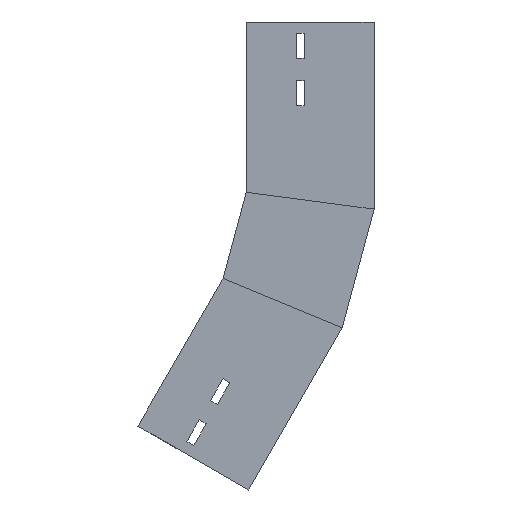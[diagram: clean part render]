
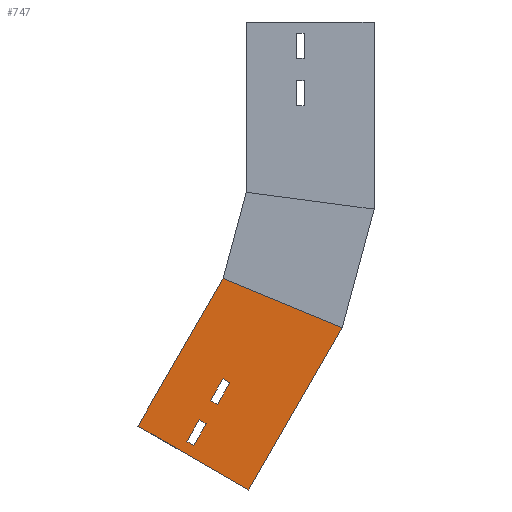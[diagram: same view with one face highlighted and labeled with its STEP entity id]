
A CAD part, left-side view. The second image highlights one B-rep face of the part: STEP entity #747.
In plain terms, the highlighted planar face has unit normal (-1, 0, 0) as drawn and (1, 0, 0) by its records, which use the part's own axes.
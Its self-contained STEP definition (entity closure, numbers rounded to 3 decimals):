
#7 = CARTESIAN_POINT ( 'NONE',  ( 0., 68.5, -73.505 ) ) ;
#8 = EDGE_CURVE ( 'NONE', #1319, #1170, #1271, .T. ) ;
#16 = VERTEX_POINT ( 'NONE', #1313 ) ;
#76 = CARTESIAN_POINT ( 'NONE',  ( 0., 61.5, -51.505 ) ) ;
#85 = VERTEX_POINT ( 'NONE', #588 ) ;
#102 = EDGE_CURVE ( 'NONE', #1325, #16, #467, .T. ) ;
#114 = LINE ( 'NONE', #792, #1168 ) ;
#117 = VECTOR ( 'NONE', #482, 1000. ) ;
#118 = DIRECTION ( 'NONE',  ( 0., -0.991, -0.131 ) ) ;
#143 = LINE ( 'NONE', #1056, #408 ) ;
#145 = CARTESIAN_POINT ( 'NONE',  ( 0., 68.5, -51.505 ) ) ;
#151 = DIRECTION ( 'NONE',  ( 0., 0., -1. ) ) ;
#152 = VECTOR ( 'NONE', #1453, 1000. ) ;
#177 = CARTESIAN_POINT ( 'NONE',  ( 0., 112.5, 0. ) ) ;
#180 = VECTOR ( 'NONE', #707, 1000. ) ;
#181 = AXIS2_PLACEMENT_3D ( 'NONE', #689, #1363, #335 ) ;
#182 = DIRECTION ( 'NONE',  ( 0., 0., -1. ) ) ;
#196 = DIRECTION ( 'NONE',  ( 0., 0., 1. ) ) ;
#222 = CARTESIAN_POINT ( 'NONE',  ( 0., 0., 0. ) ) ;
#240 = DIRECTION ( 'NONE',  ( 0., 0., 1. ) ) ;
#246 = VERTEX_POINT ( 'NONE', #1018 ) ;
#258 = VERTEX_POINT ( 'NONE', #145 ) ;
#286 = ORIENTED_EDGE ( 'NONE', *, *, #896, .T. ) ;
#314 = VECTOR ( 'NONE', #240, 1000. ) ;
#325 = LINE ( 'NONE', #1108, #580 ) ;
#326 = CARTESIAN_POINT ( 'NONE',  ( 0., 0., -164.6 ) ) ;
#335 = DIRECTION ( 'NONE',  ( 0., 0., 1. ) ) ;
#351 = EDGE_LOOP ( 'NONE', ( #286, #753, #604, #1160 ) ) ;
#355 = VECTOR ( 'NONE', #151, 1000. ) ;
#365 = EDGE_LOOP ( 'NONE', ( #914, #967, #525, #614 ) ) ;
#408 = VECTOR ( 'NONE', #118, 1000. ) ;
#413 = VERTEX_POINT ( 'NONE', #1369 ) ;
#435 = EDGE_LOOP ( 'NONE', ( #1381, #633, #761, #1474 ) ) ;
#443 = CARTESIAN_POINT ( 'NONE',  ( 0., 68.5, -51.505 ) ) ;
#446 = FACE_OUTER_BOUND ( 'NONE', #435, .T. ) ;
#467 = LINE ( 'NONE', #475, #553 ) ;
#469 = VERTEX_POINT ( 'NONE', #1361 ) ;
#475 = CARTESIAN_POINT ( 'NONE',  ( 0., 0., 0. ) ) ;
#479 = FACE_BOUND ( 'NONE', #365, .T. ) ;
#482 = DIRECTION ( 'NONE',  ( 0., 1., 0. ) ) ;
#496 = DIRECTION ( 'NONE',  ( 0., -1., 0. ) ) ;
#525 = ORIENTED_EDGE ( 'NONE', *, *, #708, .T. ) ;
#553 = VECTOR ( 'NONE', #1165, 1000. ) ;
#561 = EDGE_CURVE ( 'NONE', #258, #85, #1402, .T. ) ;
#569 = CARTESIAN_POINT ( 'NONE',  ( 0., 68.5, -9.835 ) ) ;
#580 = VECTOR ( 'NONE', #182, 1000. ) ;
#588 = CARTESIAN_POINT ( 'NONE',  ( 0., 68.5, -73.505 ) ) ;
#604 = ORIENTED_EDGE ( 'NONE', *, *, #1242, .T. ) ;
#610 = CARTESIAN_POINT ( 'NONE',  ( 0., 68.5, -51.505 ) ) ;
#611 = VECTOR ( 'NONE', #1102, 1000. ) ;
#614 = ORIENTED_EDGE ( 'NONE', *, *, #1101, .T. ) ;
#633 = ORIENTED_EDGE ( 'NONE', *, *, #102, .F. ) ;
#638 = LINE ( 'NONE', #177, #180 ) ;
#641 = EDGE_CURVE ( 'NONE', #413, #258, #1205, .T. ) ;
#666 = CARTESIAN_POINT ( 'NONE',  ( 0., 61.5, -31.835 ) ) ;
#688 = DIRECTION ( 'NONE',  ( 0., -1., 0. ) ) ;
#689 = CARTESIAN_POINT ( 'NONE',  ( 0., 0., 0. ) ) ;
#707 = DIRECTION ( 'NONE',  ( 0., 0., -1. ) ) ;
#708 = EDGE_CURVE ( 'NONE', #85, #1358, #1254, .T. ) ;
#734 = CARTESIAN_POINT ( 'NONE',  ( 0., 61.5, -73.505 ) ) ;
#740 = VERTEX_POINT ( 'NONE', #326 ) ;
#747 = ADVANCED_FACE ( 'NONE', ( #479, #446, #892 ), #898, .F. ) ;
#753 = ORIENTED_EDGE ( 'NONE', *, *, #873, .T. ) ;
#761 = ORIENTED_EDGE ( 'NONE', *, *, #1140, .T. ) ;
#792 = CARTESIAN_POINT ( 'NONE',  ( 0., 68.5, -31.835 ) ) ;
#823 = EDGE_CURVE ( 'NONE', #16, #246, #638, .T. ) ;
#873 = EDGE_CURVE ( 'NONE', #1396, #469, #1492, .T. ) ;
#892 = FACE_BOUND ( 'NONE', #351, .T. ) ;
#896 = EDGE_CURVE ( 'NONE', #1170, #1396, #1044, .T. ) ;
#898 = PLANE ( 'NONE',  #181 ) ;
#914 = ORIENTED_EDGE ( 'NONE', *, *, #641, .T. ) ;
#936 = VECTOR ( 'NONE', #496, 1000. ) ;
#956 = EDGE_CURVE ( 'NONE', #246, #740, #143, .T. ) ;
#967 = ORIENTED_EDGE ( 'NONE', *, *, #561, .T. ) ;
#1007 = CARTESIAN_POINT ( 'NONE',  ( 0., 61.5, -9.835 ) ) ;
#1016 = LINE ( 'NONE', #76, #1366 ) ;
#1018 = CARTESIAN_POINT ( 'NONE',  ( 0., 112.5, -149.789 ) ) ;
#1044 = LINE ( 'NONE', #1245, #117 ) ;
#1056 = CARTESIAN_POINT ( 'NONE',  ( 0., 21.301, -161.796 ) ) ;
#1087 = CARTESIAN_POINT ( 'NONE',  ( 0., 68.5, -9.835 ) ) ;
#1101 = EDGE_CURVE ( 'NONE', #1358, #413, #1016, .T. ) ;
#1102 = DIRECTION ( 'NONE',  ( 0., 0., -1. ) ) ;
#1108 = CARTESIAN_POINT ( 'NONE',  ( 0., 0., 0. ) ) ;
#1140 = EDGE_CURVE ( 'NONE', #1325, #740, #325, .T. ) ;
#1141 = CARTESIAN_POINT ( 'NONE',  ( 0., 61.5, -9.835 ) ) ;
#1160 = ORIENTED_EDGE ( 'NONE', *, *, #8, .T. ) ;
#1165 = DIRECTION ( 'NONE',  ( 0., 1., 0. ) ) ;
#1168 = VECTOR ( 'NONE', #688, 1000. ) ;
#1170 = VERTEX_POINT ( 'NONE', #1007 ) ;
#1205 = LINE ( 'NONE', #443, #152 ) ;
#1242 = EDGE_CURVE ( 'NONE', #469, #1319, #114, .T. ) ;
#1245 = CARTESIAN_POINT ( 'NONE',  ( 0., 68.5, -9.835 ) ) ;
#1254 = LINE ( 'NONE', #7, #936 ) ;
#1271 = LINE ( 'NONE', #1141, #314 ) ;
#1313 = CARTESIAN_POINT ( 'NONE',  ( 0., 112.5, 0. ) ) ;
#1319 = VERTEX_POINT ( 'NONE', #666 ) ;
#1325 = VERTEX_POINT ( 'NONE', #222 ) ;
#1358 = VERTEX_POINT ( 'NONE', #734 ) ;
#1361 = CARTESIAN_POINT ( 'NONE',  ( 0., 68.5, -31.835 ) ) ;
#1363 = DIRECTION ( 'NONE',  ( -1., 0., 0. ) ) ;
#1366 = VECTOR ( 'NONE', #196, 1000. ) ;
#1369 = CARTESIAN_POINT ( 'NONE',  ( 0., 61.5, -51.505 ) ) ;
#1381 = ORIENTED_EDGE ( 'NONE', *, *, #823, .F. ) ;
#1396 = VERTEX_POINT ( 'NONE', #1087 ) ;
#1402 = LINE ( 'NONE', #610, #355 ) ;
#1453 = DIRECTION ( 'NONE',  ( 0., 1., 0. ) ) ;
#1474 = ORIENTED_EDGE ( 'NONE', *, *, #956, .F. ) ;
#1492 = LINE ( 'NONE', #569, #611 ) ;
